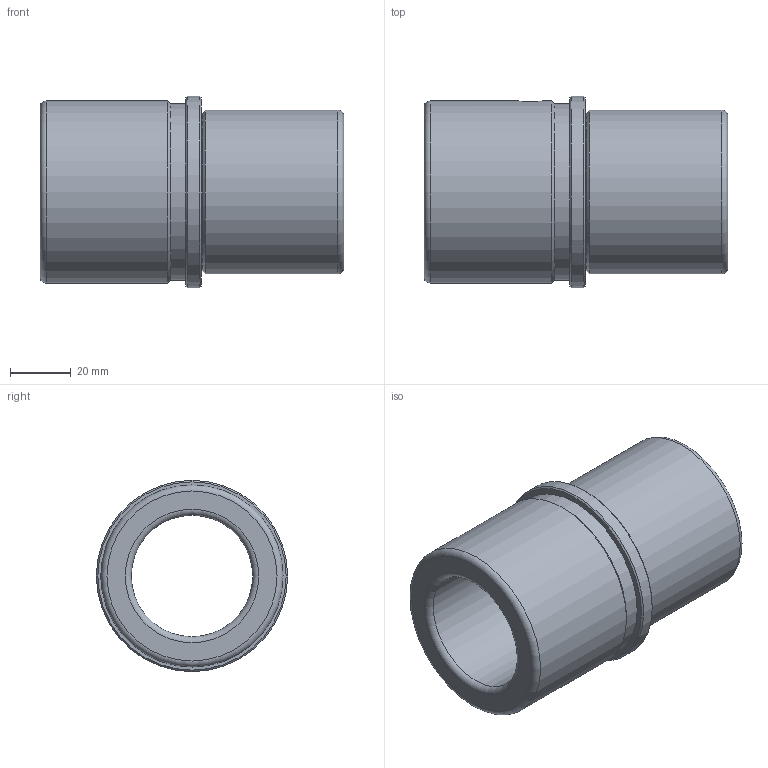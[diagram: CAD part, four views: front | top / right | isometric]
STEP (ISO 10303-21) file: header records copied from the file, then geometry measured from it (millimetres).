
FILE_DESCRIPTION( ( 'STEP AP214' ), '1' );
FILE_NAME( 'p:/temp/worker_30/temp/exporttempdir_4612_30_gnSby/format_1/WZ - 4051 40 x 100.stp', '2020-12-04T19:42:21', ( 'License CC BY-ND 4.0' ), ( 'CADENAS' ), ' ', 'PARTsolutions', ' ' );
FILE_SCHEMA( ( 'AUTOMOTIVE_DESIGN { 1 0 10303 214 1 1 1 1 }' ) );
Length unit declared in the file: millimetre
Products named in the file (1): _WZ - 4051 40 x 100
Bounding box: 100 x 63 x 63 mm (x, y, z)
Volume: 130657.5 mm3; surface area: 34506.4 mm2
Topology: 1 solids, 1 shells, 21 faces, 38 edges, 22 vertices
Faces by surface type: cylinder 7, cone 5, plane 5, torus 4
Full cylindrical faces by diameter (mm): 8.376 x1, 40 x1, 52 x1, 54 x1, 58 x1, 60 x1, 63 x1
Entity records: 750 total; most frequent: CARTESIAN_POINT 196, DIRECTION 84, EDGE_LOOP 44, ORIENTED_EDGE 44, AXIS2_PLACEMENT_3D 42, FACE_OUTER_BOUND 32, EDGE_CURVE 22, VERTEX_POINT 22
